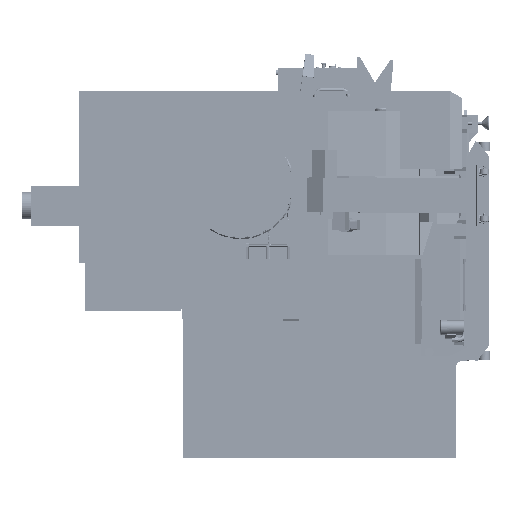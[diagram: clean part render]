
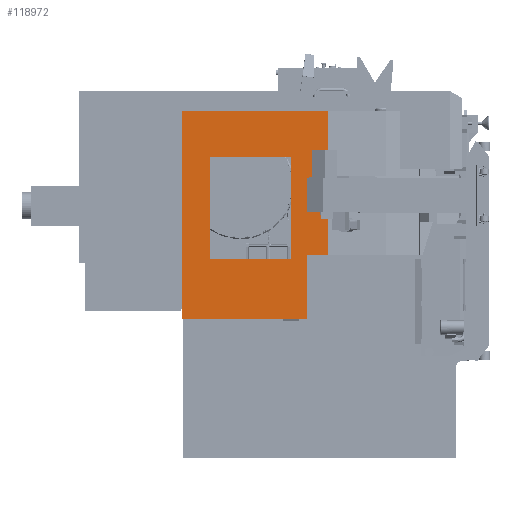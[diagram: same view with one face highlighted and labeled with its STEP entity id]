
A CAD part, left-side view. The second image highlights one B-rep face of the part: STEP entity #118972.
In plain terms, the highlighted planar face has unit normal (-1, 0, 0).
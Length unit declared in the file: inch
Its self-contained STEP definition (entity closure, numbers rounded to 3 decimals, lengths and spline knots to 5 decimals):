
#2500 = DIRECTION ( 'NONE',  ( 0., 1., 0. ) ) ;
#9104 = LINE ( 'NONE', #56797, #39172 ) ;
#13860 = EDGE_LOOP ( 'NONE', ( #173177, #287530, #159039, #79909 ) ) ;
#20994 = VERTEX_POINT ( 'NONE', #42679 ) ;
#21418 = VECTOR ( 'NONE', #77867, 39.37008 ) ;
#25943 = DIRECTION ( 'NONE',  ( 0., 0., 1. ) ) ;
#28050 = CARTESIAN_POINT ( 'NONE',  ( -80.67178, 21.33409, 0.01117 ) ) ;
#29234 = DIRECTION ( 'NONE',  ( 0., 1., 0. ) ) ;
#32510 = LINE ( 'NONE', #232743, #34437 ) ;
#32660 = CARTESIAN_POINT ( 'NONE',  ( -80.67178, 28.75507, 0.00098 ) ) ;
#34437 = VECTOR ( 'NONE', #83378, 39.37008 ) ;
#39172 = VECTOR ( 'NONE', #183141, 39.37008 ) ;
#42679 = CARTESIAN_POINT ( 'NONE',  ( -80.67178, 21.33409, 0.01117 ) ) ;
#56797 = CARTESIAN_POINT ( 'NONE',  ( -80.67178, 34.44063, 34.87577 ) ) ;
#58496 = CARTESIAN_POINT ( 'NONE',  ( -80.67178, 21.36224, 0.01117 ) ) ;
#64716 = EDGE_CURVE ( 'NONE', #115679, #290057, #125580, .T. ) ;
#70280 = EDGE_CURVE ( 'NONE', #178301, #284366, #297889, .T. ) ;
#70668 = EDGE_CURVE ( 'NONE', #289156, #189146, #228464, .T. ) ;
#70995 = DIRECTION ( 'NONE',  ( 0., 1., 0. ) ) ;
#71824 = DIRECTION ( 'NONE',  ( 0., -1., 0. ) ) ;
#75248 = DIRECTION ( 'NONE',  ( 0., 0., -1. ) ) ;
#75706 = DIRECTION ( 'NONE',  ( 0., -1., 0. ) ) ;
#76866 = LINE ( 'NONE', #298502, #261103 ) ;
#77583 = VECTOR ( 'NONE', #29234, 39.37008 ) ;
#77867 = DIRECTION ( 'NONE',  ( 0., 0., -1. ) ) ;
#78333 = ORIENTED_EDGE ( 'NONE', *, *, #316560, .T. ) ;
#79909 = ORIENTED_EDGE ( 'NONE', *, *, #274235, .F. ) ;
#83378 = DIRECTION ( 'NONE',  ( 0., 0., -1. ) ) ;
#84524 = EDGE_CURVE ( 'NONE', #284366, #300373, #119420, .T. ) ;
#87002 = DIRECTION ( 'NONE',  ( -1., 0., 0. ) ) ;
#87908 = CARTESIAN_POINT ( 'NONE',  ( -80.67178, 63.54466, 34.87577 ) ) ;
#93212 = CARTESIAN_POINT ( 'NONE',  ( -80.67178, 63.54466, -1.62423 ) ) ;
#115679 = VERTEX_POINT ( 'NONE', #271383 ) ;
#117579 = EDGE_CURVE ( 'NONE', #273467, #220471, #181826, .T. ) ;
#118972 = ADVANCED_FACE ( 'NONE', ( #308655, #217820 ), #259381, .T. ) ;
#119420 = LINE ( 'NONE', #93212, #179484 ) ;
#122075 = EDGE_CURVE ( 'NONE', #261844, #178301, #173295, .T. ) ;
#123000 = ORIENTED_EDGE ( 'NONE', *, *, #117579, .F. ) ;
#125172 = ORIENTED_EDGE ( 'NONE', *, *, #64716, .F. ) ;
#125580 = LINE ( 'NONE', #173229, #323385 ) ;
#130994 = CARTESIAN_POINT ( 'NONE',  ( -80.67178, 21.36224, 0.00098 ) ) ;
#134355 = CARTESIAN_POINT ( 'NONE',  ( -80.67178, 21.33409, 51.37215 ) ) ;
#134543 = CARTESIAN_POINT ( 'NONE',  ( -80.67178, 73.21438, -23.03512 ) ) ;
#134622 = CARTESIAN_POINT ( 'NONE',  ( -80.67178, 73.13058, -22.01512 ) ) ;
#149722 = CARTESIAN_POINT ( 'NONE',  ( -80.67178, 21.33409, 51.37215 ) ) ;
#154975 = ORIENTED_EDGE ( 'NONE', *, *, #295285, .F. ) ;
#158031 = VECTOR ( 'NONE', #70995, 39.37008 ) ;
#159039 = ORIENTED_EDGE ( 'NONE', *, *, #122075, .F. ) ;
#173177 = ORIENTED_EDGE ( 'NONE', *, *, #84524, .F. ) ;
#173229 = CARTESIAN_POINT ( 'NONE',  ( -80.67178, 73.13058, -23.03512 ) ) ;
#173295 = LINE ( 'NONE', #225793, #230564 ) ;
#174210 = LINE ( 'NONE', #28050, #199345 ) ;
#178301 = VERTEX_POINT ( 'NONE', #87908 ) ;
#179484 = VECTOR ( 'NONE', #71824, 39.37008 ) ;
#181826 = LINE ( 'NONE', #130994, #77583 ) ;
#182103 = CARTESIAN_POINT ( 'NONE',  ( -80.67178, 21.33409, 51.37215 ) ) ;
#183141 = DIRECTION ( 'NONE',  ( 0., 0., 1. ) ) ;
#183869 = ORIENTED_EDGE ( 'NONE', *, *, #252771, .T. ) ;
#187035 = VECTOR ( 'NONE', #25943, 39.37008 ) ;
#189146 = VERTEX_POINT ( 'NONE', #240349 ) ;
#195027 = ORIENTED_EDGE ( 'NONE', *, *, #70668, .T. ) ;
#195992 = EDGE_CURVE ( 'NONE', #260786, #273467, #32510, .T. ) ;
#199345 = VECTOR ( 'NONE', #75706, 39.37008 ) ;
#201894 = DIRECTION ( 'NONE',  ( 0., 0., 1. ) ) ;
#210328 = EDGE_LOOP ( 'NONE', ( #195027, #303101, #125172, #154975, #123000, #294918, #78333, #183869 ) ) ;
#211951 = VECTOR ( 'NONE', #201894, 39.37008 ) ;
#214421 = CARTESIAN_POINT ( 'NONE',  ( -80.67178, 34.44063, -1.62423 ) ) ;
#217820 = FACE_OUTER_BOUND ( 'NONE', #210328, .T. ) ;
#220471 = VERTEX_POINT ( 'NONE', #32660 ) ;
#224574 = LINE ( 'NONE', #250836, #187035 ) ;
#225728 = DIRECTION ( 'NONE',  ( 0., 1., 0. ) ) ;
#225793 = CARTESIAN_POINT ( 'NONE',  ( -80.67178, 34.44063, 34.87577 ) ) ;
#228464 = LINE ( 'NONE', #149722, #158031 ) ;
#230564 = VECTOR ( 'NONE', #2500, 39.37008 ) ;
#232743 = CARTESIAN_POINT ( 'NONE',  ( -80.67178, 21.36224, 1.02098 ) ) ;
#240349 = CARTESIAN_POINT ( 'NONE',  ( -80.67178, 73.21438, 51.37215 ) ) ;
#241830 = CARTESIAN_POINT ( 'NONE',  ( -80.67178, 63.54466, -1.62423 ) ) ;
#250836 = CARTESIAN_POINT ( 'NONE',  ( -80.67178, 73.21438, -23.03512 ) ) ;
#252771 = EDGE_CURVE ( 'NONE', #20994, #289156, #306862, .T. ) ;
#259381 = PLANE ( 'NONE',  #271333 ) ;
#260786 = VERTEX_POINT ( 'NONE', #58496 ) ;
#261103 = VECTOR ( 'NONE', #75248, 39.37008 ) ;
#261844 = VERTEX_POINT ( 'NONE', #301969 ) ;
#271333 = AXIS2_PLACEMENT_3D ( 'NONE', #134622, #87002, #307036 ) ;
#271383 = CARTESIAN_POINT ( 'NONE',  ( -80.67178, 28.75507, -23.03512 ) ) ;
#273467 = VERTEX_POINT ( 'NONE', #294490 ) ;
#274235 = EDGE_CURVE ( 'NONE', #300373, #261844, #9104, .T. ) ;
#279719 = CARTESIAN_POINT ( 'NONE',  ( -80.67178, 63.54466, 34.87577 ) ) ;
#284366 = VERTEX_POINT ( 'NONE', #241830 ) ;
#287530 = ORIENTED_EDGE ( 'NONE', *, *, #70280, .F. ) ;
#289156 = VERTEX_POINT ( 'NONE', #134355 ) ;
#290057 = VERTEX_POINT ( 'NONE', #134543 ) ;
#294480 = EDGE_CURVE ( 'NONE', #290057, #189146, #224574, .T. ) ;
#294490 = CARTESIAN_POINT ( 'NONE',  ( -80.67178, 21.36224, 0.00098 ) ) ;
#294918 = ORIENTED_EDGE ( 'NONE', *, *, #195992, .F. ) ;
#295285 = EDGE_CURVE ( 'NONE', #220471, #115679, #76866, .T. ) ;
#297889 = LINE ( 'NONE', #279719, #21418 ) ;
#298502 = CARTESIAN_POINT ( 'NONE',  ( -80.67178, 28.75507, -22.01512 ) ) ;
#300373 = VERTEX_POINT ( 'NONE', #214421 ) ;
#301969 = CARTESIAN_POINT ( 'NONE',  ( -80.67178, 34.44063, 34.87577 ) ) ;
#303101 = ORIENTED_EDGE ( 'NONE', *, *, #294480, .F. ) ;
#306862 = LINE ( 'NONE', #182103, #211951 ) ;
#307036 = DIRECTION ( 'NONE',  ( 0., 0., 1. ) ) ;
#308655 = FACE_BOUND ( 'NONE', #13860, .T. ) ;
#316560 = EDGE_CURVE ( 'NONE', #260786, #20994, #174210, .T. ) ;
#323385 = VECTOR ( 'NONE', #225728, 39.37008 ) ;
